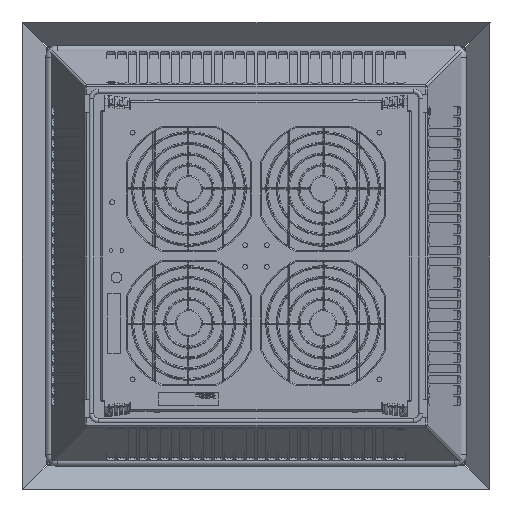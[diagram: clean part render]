
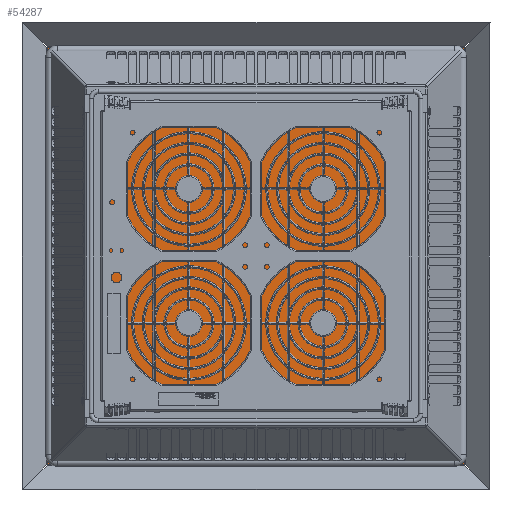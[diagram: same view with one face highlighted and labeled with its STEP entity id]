
A CAD part, front view. The second image highlights one B-rep face of the part: STEP entity #54287.
In plain terms, the highlighted planar face has unit normal (0, -1, 0).
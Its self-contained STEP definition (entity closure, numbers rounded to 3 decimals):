
#13808 = CARTESIAN_POINT ( 'NONE',  ( -194.172, 66.9, -194.172 ) ) ;
#14504 = DIRECTION ( 'NONE',  ( 0., 0., -1. ) ) ;
#14505 = VECTOR ( 'NONE', #14504, 1000. ) ;
#14506 = CARTESIAN_POINT ( 'NONE',  ( -194.172, 66.9, 195. ) ) ;
#14507 = LINE ( 'NONE', #14506, #14505 ) ;
#14591 = CARTESIAN_POINT ( 'NONE',  ( -194.172, 66.9, 194.172 ) ) ;
#14780 = DIRECTION ( 'NONE',  ( 1., 0., 0. ) ) ;
#14781 = VECTOR ( 'NONE', #14780, 1000. ) ;
#14782 = CARTESIAN_POINT ( 'NONE',  ( -195., 66.9, -194.172 ) ) ;
#14783 = LINE ( 'NONE', #14782, #14781 ) ;
#14789 = DIRECTION ( 'NONE',  ( 0., 0., -1. ) ) ;
#14790 = DIRECTION ( 'NONE',  ( 0., 1., 0. ) ) ;
#14793 = CARTESIAN_POINT ( 'NONE',  ( 150., 66.9, 150. ) ) ;
#14794 = AXIS2_PLACEMENT_3D ( 'NONE', #14793, #14790, #14789 ) ;
#14795 = CIRCLE ( 'NONE', #14794, 2.5 ) ;
#14797 = CARTESIAN_POINT ( 'NONE',  ( -150., 66.9, -152.5 ) ) ;
#14802 = CARTESIAN_POINT ( 'NONE',  ( -150., 66.9, -147.5 ) ) ;
#14857 = CARTESIAN_POINT ( 'NONE',  ( 194.172, 66.9, 194.172 ) ) ;
#14883 = DIRECTION ( 'NONE',  ( -1., 0., 0. ) ) ;
#14884 = VECTOR ( 'NONE', #14883, 1000. ) ;
#14885 = CARTESIAN_POINT ( 'NONE',  ( 2145., 66.9, 194.172 ) ) ;
#14886 = LINE ( 'NONE', #14885, #14884 ) ;
#14931 = CARTESIAN_POINT ( 'NONE',  ( 194.172, 66.9, -194.172 ) ) ;
#14939 = CARTESIAN_POINT ( 'NONE',  ( 150., 66.9, 152.5 ) ) ;
#14943 = AXIS2_PLACEMENT_3D ( 'NONE', #14985, #14977, #14973 ) ;
#14973 = DIRECTION ( 'NONE',  ( 0., 0., -1. ) ) ;
#14977 = DIRECTION ( 'NONE',  ( 0., 1., 0. ) ) ;
#14985 = CARTESIAN_POINT ( 'NONE',  ( 150., 66.9, 150. ) ) ;
#14991 = CIRCLE ( 'NONE', #14943, 2.5 ) ;
#15045 = CARTESIAN_POINT ( 'NONE',  ( 150., 66.9, 147.5 ) ) ;
#15075 = AXIS2_PLACEMENT_3D ( 'NONE', #15117, #15116, #15115 ) ;
#15076 = CIRCLE ( 'NONE', #15075, 2.5 ) ;
#15077 = CIRCLE ( 'NONE', #15153, 2.5 ) ;
#15082 = CIRCLE ( 'NONE', #15149, 2.5 ) ;
#15092 = CARTESIAN_POINT ( 'NONE',  ( -150., 66.9, 147.5 ) ) ;
#15093 = CIRCLE ( 'NONE', #15145, 2.5 ) ;
#15095 = CARTESIAN_POINT ( 'NONE',  ( 194.172, 66.9, -195. ) ) ;
#15096 = LINE ( 'NONE', #15095, #15104 ) ;
#15097 = DIRECTION ( 'NONE',  ( 0., 0., -1. ) ) ;
#15098 = DIRECTION ( 'NONE',  ( 0., 1., 0. ) ) ;
#15099 = CARTESIAN_POINT ( 'NONE',  ( 150., 66.9, -150. ) ) ;
#15100 = CARTESIAN_POINT ( 'NONE',  ( -150., 66.9, -150. ) ) ;
#15102 = AXIS2_PLACEMENT_3D ( 'NONE', #15099, #15098, #15097 ) ;
#15103 = CIRCLE ( 'NONE', #15102, 2.5 ) ;
#15104 = VECTOR ( 'NONE', #15148, 1000. ) ;
#15106 = DIRECTION ( 'NONE',  ( 0., 0., -1. ) ) ;
#15107 = DIRECTION ( 'NONE',  ( 0., 1., 0. ) ) ;
#15108 = CARTESIAN_POINT ( 'NONE',  ( 150., 66.9, -150. ) ) ;
#15109 = AXIS2_PLACEMENT_3D ( 'NONE', #15108, #15107, #15106 ) ;
#15110 = CIRCLE ( 'NONE', #15109, 2.5 ) ;
#15115 = DIRECTION ( 'NONE',  ( 0., 0., -1. ) ) ;
#15116 = DIRECTION ( 'NONE',  ( 0., 1., 0. ) ) ;
#15117 = CARTESIAN_POINT ( 'NONE',  ( -150., 66.9, 150. ) ) ;
#15118 = CARTESIAN_POINT ( 'NONE',  ( 150., 66.9, -147.5 ) ) ;
#15119 = CARTESIAN_POINT ( 'NONE',  ( 150., 66.9, -152.5 ) ) ;
#15120 = CARTESIAN_POINT ( 'NONE',  ( -150., 66.9, 152.5 ) ) ;
#15125 = DIRECTION ( 'NONE',  ( 0., -1., 0. ) ) ;
#15126 = CARTESIAN_POINT ( 'NONE',  ( -195., 66.9, -195. ) ) ;
#15132 = FACE_OUTER_BOUND ( 'NONE', #54265, .T. ) ;
#15133 = DIRECTION ( 'NONE',  ( 0., 0., -1. ) ) ;
#15134 = DIRECTION ( 'NONE',  ( 0., 1., 0. ) ) ;
#15135 = FACE_BOUND ( 'NONE', #54207, .T. ) ;
#15136 = PLANE ( 'NONE',  #15144 ) ;
#15137 = FACE_BOUND ( 'NONE', #54256, .T. ) ;
#15138 = CARTESIAN_POINT ( 'NONE',  ( -150., 66.9, 150. ) ) ;
#15139 = FACE_BOUND ( 'NONE', #54281, .T. ) ;
#15140 = FACE_BOUND ( 'NONE', #54278, .T. ) ;
#15142 = DIRECTION ( 'NONE',  ( 0., 0., -1. ) ) ;
#15143 = DIRECTION ( 'NONE',  ( 0., 1., 0. ) ) ;
#15144 = AXIS2_PLACEMENT_3D ( 'NONE', #15126, #15125, #15182 ) ;
#15145 = AXIS2_PLACEMENT_3D ( 'NONE', #15138, #15134, #15133 ) ;
#15148 = DIRECTION ( 'NONE',  ( 0., 0., 1. ) ) ;
#15149 = AXIS2_PLACEMENT_3D ( 'NONE', #15150, #15143, #15142 ) ;
#15150 = CARTESIAN_POINT ( 'NONE',  ( -150., 66.9, -150. ) ) ;
#15151 = DIRECTION ( 'NONE',  ( 0., 0., -1. ) ) ;
#15152 = DIRECTION ( 'NONE',  ( 0., 1., 0. ) ) ;
#15153 = AXIS2_PLACEMENT_3D ( 'NONE', #15100, #15152, #15151 ) ;
#15182 = DIRECTION ( 'NONE',  ( 0., 0., -1. ) ) ;
#54019 = EDGE_CURVE ( 'NONE', #54067, #54036, #14507, .T. ) ;
#54036 = VERTEX_POINT ( 'NONE', #13808 ) ;
#54067 = VERTEX_POINT ( 'NONE', #14591 ) ;
#54130 = VERTEX_POINT ( 'NONE', #14857 ) ;
#54150 = EDGE_CURVE ( 'NONE', #54130, #54067, #14886, .T. ) ;
#54196 = VERTEX_POINT ( 'NONE', #14931 ) ;
#54206 = VERTEX_POINT ( 'NONE', #14939 ) ;
#54207 = EDGE_LOOP ( 'NONE', ( #54273, #54274 ) ) ;
#54208 = ORIENTED_EDGE ( 'NONE', *, *, #54210, .T. ) ;
#54209 = ORIENTED_EDGE ( 'NONE', *, *, #54211, .T. ) ;
#54210 = EDGE_CURVE ( 'NONE', #54206, #54220, #14991, .T. ) ;
#54211 = EDGE_CURVE ( 'NONE', #54220, #54206, #14795, .T. ) ;
#54215 = VERTEX_POINT ( 'NONE', #14797 ) ;
#54216 = VERTEX_POINT ( 'NONE', #14802 ) ;
#54217 = EDGE_CURVE ( 'NONE', #54036, #54196, #14783, .T. ) ;
#54220 = VERTEX_POINT ( 'NONE', #15045 ) ;
#54253 = VERTEX_POINT ( 'NONE', #15092 ) ;
#54254 = VERTEX_POINT ( 'NONE', #15120 ) ;
#54255 = ORIENTED_EDGE ( 'NONE', *, *, #54280, .T. ) ;
#54256 = EDGE_LOOP ( 'NONE', ( #54259, #54263 ) ) ;
#54257 = EDGE_CURVE ( 'NONE', #54254, #54253, #15076, .T. ) ;
#54259 = ORIENTED_EDGE ( 'NONE', *, *, #54285, .T. ) ;
#54261 = ORIENTED_EDGE ( 'NONE', *, *, #54150, .T. ) ;
#54263 = ORIENTED_EDGE ( 'NONE', *, *, #54257, .T. ) ;
#54265 = EDGE_LOOP ( 'NONE', ( #54266, #54269, #54261, #54327 ) ) ;
#54266 = ORIENTED_EDGE ( 'NONE', *, *, #54217, .T. ) ;
#54269 = ORIENTED_EDGE ( 'NONE', *, *, #54277, .T. ) ;
#54270 = EDGE_CURVE ( 'NONE', #54272, #54271, #15110, .T. ) ;
#54271 = VERTEX_POINT ( 'NONE', #15118 ) ;
#54272 = VERTEX_POINT ( 'NONE', #15119 ) ;
#54273 = ORIENTED_EDGE ( 'NONE', *, *, #54270, .T. ) ;
#54274 = ORIENTED_EDGE ( 'NONE', *, *, #54275, .T. ) ;
#54275 = EDGE_CURVE ( 'NONE', #54271, #54272, #15103, .T. ) ;
#54276 = EDGE_CURVE ( 'NONE', #54215, #54216, #15077, .T. ) ;
#54277 = EDGE_CURVE ( 'NONE', #54196, #54130, #15096, .T. ) ;
#54278 = EDGE_LOOP ( 'NONE', ( #54279, #54255 ) ) ;
#54279 = ORIENTED_EDGE ( 'NONE', *, *, #54276, .T. ) ;
#54280 = EDGE_CURVE ( 'NONE', #54216, #54215, #15082, .T. ) ;
#54281 = EDGE_LOOP ( 'NONE', ( #54209, #54208 ) ) ;
#54285 = EDGE_CURVE ( 'NONE', #54253, #54254, #15093, .T. ) ;
#54287 = ADVANCED_FACE ( 'NONE', ( #15139, #15135, #15140, #15137, #15132 ), #15136, .T. ) ;
#54327 = ORIENTED_EDGE ( 'NONE', *, *, #54019, .T. ) ;
